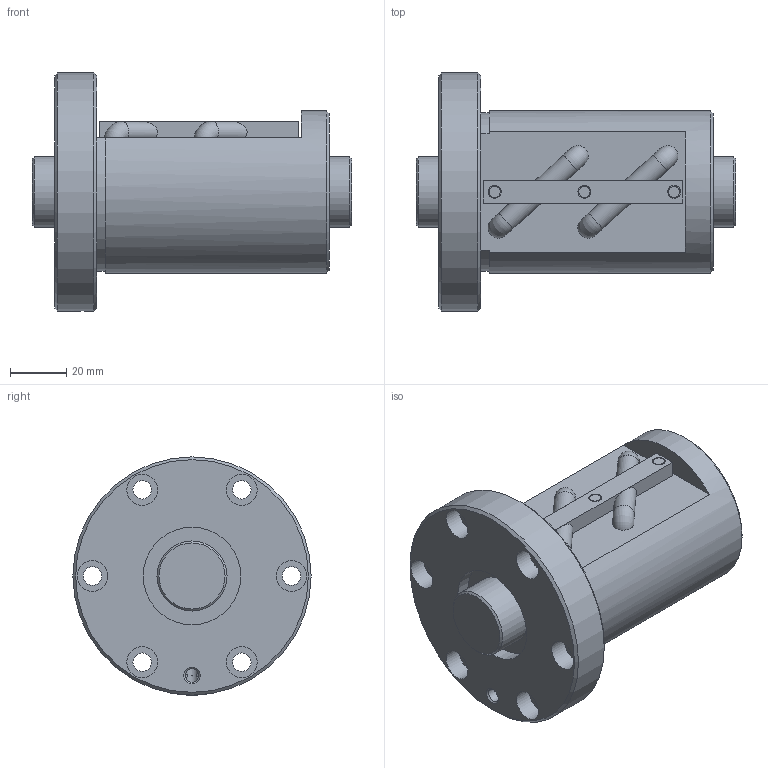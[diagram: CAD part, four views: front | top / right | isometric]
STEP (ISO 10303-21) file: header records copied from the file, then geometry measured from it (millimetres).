
FILE_DESCRIPTION(/* description */ ('STEP AP203'),/* implementation_level */ '2;1');
FILE_NAME(/* name */ 'BIF2508V-7RRG0+114LC0_000',/* time_stamp */ '2024-07-15T08:17:54+02:00',/* author */ ('License CC BY-ND 4.0'),/* organization */ ('CADENAS'),/* preprocessor_version */ 'ST-DEVELOPER v19.3',/* originating_system */ 'PARTsolutions',/* authorisation */ ' ');
FILE_SCHEMA (('CONFIG_CONTROL_DESIGN'));
Length unit declared in the file: millimetre
Products named in the file (3): BIF2508V-7RRG0+114LC0_000; BIF2508V-7RR000 Shaft; BIF2508V-7RR Nut
Assembly tree (2 placements, depth 2):
  BIF2508V-7RRG0+114LC0_000
    BIF2508V-7RR000 Shaft
    BIF2508V-7RR Nut
Bounding box: 114 x 85 x 85 mm (x, y, z)
Volume: 285178.1 mm3; surface area: 51267.5 mm2
Topology: 2 solids, 2 shells, 88 faces, 191 edges, 122 vertices
Faces by surface type: plane 43, cylinder 32, cone 9, torus 4
Full cylindrical faces by diameter (mm): 4 x3, 4.25 x2, 4.6 x3, 4.917 x1, 6.6 x6, 11 x6, 25 x2, 34.8 x2, 58 x1, 85 x1
Entity records: 2360 total; most frequent: CARTESIAN_POINT 468, DIRECTION 408, ORIENTED_EDGE 290, AXIS2_PLACEMENT_3D 183, FACE_BOUND 157, EDGE_LOOP 156, EDGE_CURVE 145, VERTEX_POINT 114
